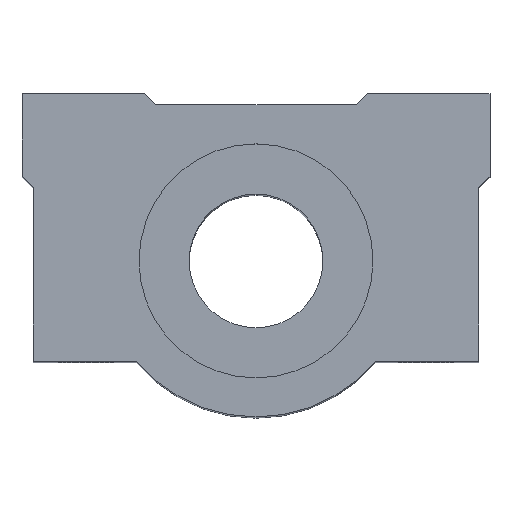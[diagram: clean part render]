
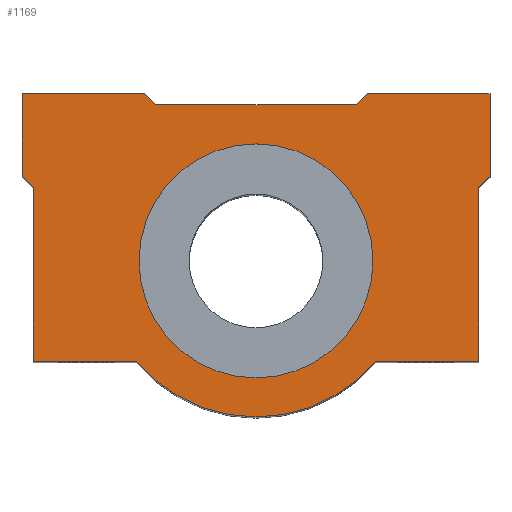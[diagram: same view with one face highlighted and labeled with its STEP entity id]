
A CAD part, top view. The second image highlights one B-rep face of the part: STEP entity #1169.
In plain terms, the highlighted planar face has unit normal (0, 0, 1).
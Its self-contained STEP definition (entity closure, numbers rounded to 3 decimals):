
#91=CARTESIAN_POINT('',(-11.209,4.198,68.0));
#92=VERTEX_POINT('',#91);
#101=CARTESIAN_POINT('',(9.791,4.198,68.0));
#102=VERTEX_POINT('',#101);
#103=CARTESIAN_POINT('',(-0.709,4.198,68.0));
#104=DIRECTION('',(0.0,0.0,-1.0));
#105=DIRECTION('',(-1.0,0.0,0.0));
#106=AXIS2_PLACEMENT_3D('',#103,#104,#105);
#107=CIRCLE('',#106,10.5);
#108=EDGE_CURVE('',#102,#92,#107,.T.);
#640=CARTESIAN_POINT('',(-0.709,4.198,68.0));
#641=DIRECTION('',(0.0,0.0,-1.0));
#642=DIRECTION('',(-1.0,0.0,0.0));
#643=AXIS2_PLACEMENT_3D('',#640,#641,#642);
#644=CIRCLE('',#643,10.5);
#645=EDGE_CURVE('',#92,#102,#644,.T.);
#780=CARTESIAN_POINT('',(20.291,11.798,68.0));
#781=VERTEX_POINT('',#780);
#782=CARTESIAN_POINT('',(19.291,10.798,68.0));
#783=VERTEX_POINT('',#782);
#784=CARTESIAN_POINT('',(20.291,11.798,68.0));
#785=DIRECTION('',(-0.707,-0.707,0.0));
#786=VECTOR('',#785,1.414);
#787=LINE('',#784,#786);
#788=EDGE_CURVE('',#781,#783,#787,.T.);
#811=CARTESIAN_POINT('',(19.291,-4.802,68.0));
#812=VERTEX_POINT('',#811);
#813=CARTESIAN_POINT('',(19.291,10.798,68.0));
#814=DIRECTION('',(0.0,-1.0,0.0));
#815=VECTOR('',#814,15.6);
#816=LINE('',#813,#815);
#817=EDGE_CURVE('',#783,#812,#816,.T.);
#835=CARTESIAN_POINT('',(10.015,-4.802,68.0));
#836=VERTEX_POINT('',#835);
#837=CARTESIAN_POINT('',(19.291,-4.802,68.0));
#838=DIRECTION('',(-1.0,0.0,0.0));
#839=VECTOR('',#838,9.276);
#840=LINE('',#837,#839);
#841=EDGE_CURVE('',#812,#836,#840,.T.);
#867=CARTESIAN_POINT('',(-11.433,-4.802,68.0));
#868=VERTEX_POINT('',#867);
#869=CARTESIAN_POINT('',(-0.709,4.198,68.0));
#870=DIRECTION('',(0.0,0.0,-1.0));
#871=DIRECTION('',(0.766,0.643,0.0));
#872=AXIS2_PLACEMENT_3D('',#869,#870,#871);
#873=CIRCLE('',#872,14.);
#874=EDGE_CURVE('',#836,#868,#873,.T.);
#892=CARTESIAN_POINT('',(-20.709,-4.802,68.0));
#893=VERTEX_POINT('',#892);
#894=CARTESIAN_POINT('',(-11.433,-4.802,68.0));
#895=DIRECTION('',(-1.0,0.0,0.0));
#896=VECTOR('',#895,9.276);
#897=LINE('',#894,#896);
#898=EDGE_CURVE('',#868,#893,#897,.T.);
#924=CARTESIAN_POINT('',(-20.709,10.798,68.0));
#925=VERTEX_POINT('',#924);
#926=CARTESIAN_POINT('',(-20.709,-4.802,68.0));
#927=DIRECTION('',(0.0,1.0,0.0));
#928=VECTOR('',#927,15.6);
#929=LINE('',#926,#928);
#930=EDGE_CURVE('',#893,#925,#929,.T.);
#948=CARTESIAN_POINT('',(-21.709,11.798,68.0));
#949=VERTEX_POINT('',#948);
#950=CARTESIAN_POINT('',(-20.709,10.798,68.0));
#951=DIRECTION('',(-0.707,0.707,0.0));
#952=VECTOR('',#951,1.414);
#953=LINE('',#950,#952);
#954=EDGE_CURVE('',#925,#949,#953,.T.);
#972=CARTESIAN_POINT('',(-21.709,19.198,68.0));
#973=VERTEX_POINT('',#972);
#974=CARTESIAN_POINT('',(-21.709,11.798,68.0));
#975=DIRECTION('',(0.0,1.0,0.0));
#976=VECTOR('',#975,7.4);
#977=LINE('',#974,#976);
#978=EDGE_CURVE('',#949,#973,#977,.T.);
#996=CARTESIAN_POINT('',(-10.709,19.198,68.0));
#997=VERTEX_POINT('',#996);
#998=CARTESIAN_POINT('',(-21.709,19.198,68.0));
#999=DIRECTION('',(1.0,0.0,0.0));
#1000=VECTOR('',#999,11.);
#1001=LINE('',#998,#1000);
#1002=EDGE_CURVE('',#973,#997,#1001,.T.);
#1028=CARTESIAN_POINT('',(-9.709,18.198,68.0));
#1029=VERTEX_POINT('',#1028);
#1030=CARTESIAN_POINT('',(-10.709,19.198,68.0));
#1031=DIRECTION('',(0.707,-0.707,0.0));
#1032=VECTOR('',#1031,1.414);
#1033=LINE('',#1030,#1032);
#1034=EDGE_CURVE('',#997,#1029,#1033,.T.);
#1052=CARTESIAN_POINT('',(8.291,18.198,68.0));
#1053=VERTEX_POINT('',#1052);
#1054=CARTESIAN_POINT('',(-9.709,18.198,68.0));
#1055=DIRECTION('',(1.0,0.0,0.0));
#1056=VECTOR('',#1055,18.0);
#1057=LINE('',#1054,#1056);
#1058=EDGE_CURVE('',#1029,#1053,#1057,.T.);
#1076=CARTESIAN_POINT('',(9.291,19.198,68.0));
#1077=VERTEX_POINT('',#1076);
#1078=CARTESIAN_POINT('',(8.291,18.198,68.0));
#1079=DIRECTION('',(0.707,0.707,0.0));
#1080=VECTOR('',#1079,1.414);
#1081=LINE('',#1078,#1080);
#1082=EDGE_CURVE('',#1053,#1077,#1081,.T.);
#1100=CARTESIAN_POINT('',(20.291,19.198,68.0));
#1101=VERTEX_POINT('',#1100);
#1102=CARTESIAN_POINT('',(9.291,19.198,68.0));
#1103=DIRECTION('',(1.0,0.0,0.0));
#1104=VECTOR('',#1103,11.);
#1105=LINE('',#1102,#1104);
#1106=EDGE_CURVE('',#1077,#1101,#1105,.T.);
#1132=CARTESIAN_POINT('',(20.291,19.198,68.0));
#1133=DIRECTION('',(0.0,-1.0,0.0));
#1134=VECTOR('',#1133,7.4);
#1135=LINE('',#1132,#1134);
#1136=EDGE_CURVE('',#1101,#781,#1135,.T.);
#1144=CARTESIAN_POINT('',(-0.709,6.528,68.0));
#1145=DIRECTION('',(0.0,0.0,1.0));
#1146=DIRECTION('',(1.0,0.0,0.0));
#1147=AXIS2_PLACEMENT_3D('',#1144,#1145,#1146);
#1148=PLANE('',#1147);
#1149=ORIENTED_EDGE('',*,*,#788,.F.);
#1150=ORIENTED_EDGE('',*,*,#1136,.F.);
#1151=ORIENTED_EDGE('',*,*,#1106,.F.);
#1152=ORIENTED_EDGE('',*,*,#1082,.F.);
#1153=ORIENTED_EDGE('',*,*,#1058,.F.);
#1154=ORIENTED_EDGE('',*,*,#1034,.F.);
#1155=ORIENTED_EDGE('',*,*,#1002,.F.);
#1156=ORIENTED_EDGE('',*,*,#978,.F.);
#1157=ORIENTED_EDGE('',*,*,#954,.F.);
#1158=ORIENTED_EDGE('',*,*,#930,.F.);
#1159=ORIENTED_EDGE('',*,*,#898,.F.);
#1160=ORIENTED_EDGE('',*,*,#874,.F.);
#1161=ORIENTED_EDGE('',*,*,#841,.F.);
#1162=ORIENTED_EDGE('',*,*,#817,.F.);
#1163=EDGE_LOOP('',(#1149,#1150,#1151,#1152,#1153,#1154,#1155,#1156,#1157,#1158,#1159,#1160,#1161,#1162));
#1164=FACE_OUTER_BOUND('',#1163,.T.);
#1165=ORIENTED_EDGE('',*,*,#108,.T.);
#1166=ORIENTED_EDGE('',*,*,#645,.T.);
#1167=EDGE_LOOP('',(#1165,#1166));
#1168=FACE_BOUND('',#1167,.T.);
#1169=ADVANCED_FACE('',(#1164,#1168),#1148,.T.);
